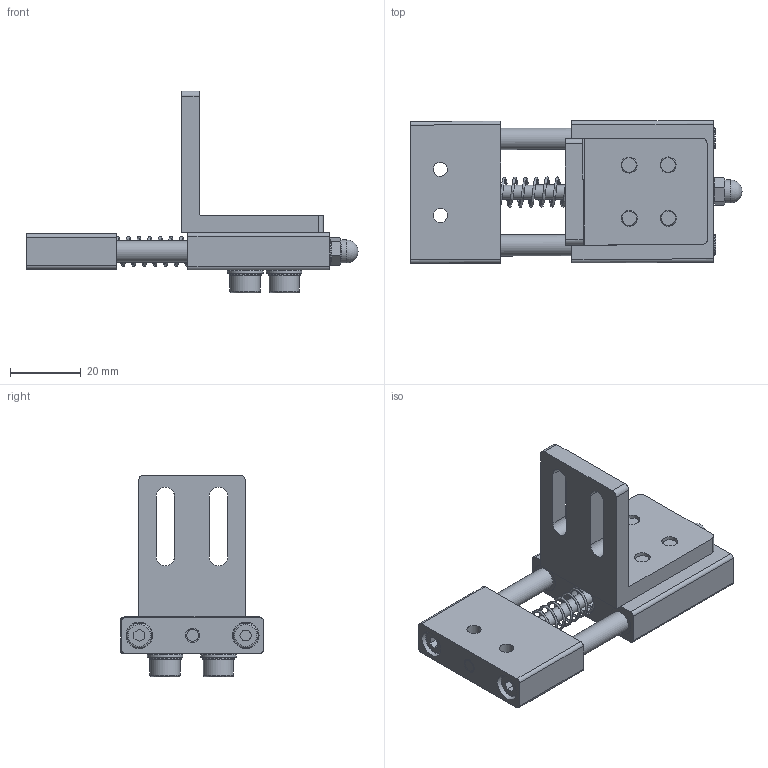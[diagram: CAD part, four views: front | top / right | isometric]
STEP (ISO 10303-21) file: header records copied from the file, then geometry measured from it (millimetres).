
FILE_DESCRIPTION(('STEP AP214'),'1');
FILE_NAME('CA.UCP.NO.20.stp','2022-07-28T07:45:22',(' '),(' '),'Spatial InterOp 3D',' ',' ');
FILE_SCHEMA(('AUTOMOTIVE_DESIGN { 1 0 10303 214 1 1 1 1 }'));
Length unit declared in the file: millimetre
Products named in the file (14): CA.UCP.NO.20; V.TCE5x16; R.5.SCH; R.5; V.TCE4x18; M.8.5X48.50.1; D.4.DIN1587; PAP.0405510; PAP.060810; UCP.NO.20.03; UCP.NO.20.05; UCP.NO.20.04; UCP.NO.20.01; UCP.NO.20.02
Assembly tree (25 placements, depth 2):
  CA.UCP.NO.20
    V.TCE5x16  x4
    R.5.SCH  x4
    R.5  x4
    V.TCE4x18  x2
    M.8.5X48.50.1
    D.4.DIN1587
    PAP.0405510
    PAP.060810  x2
    UCP.NO.20.03
    UCP.NO.20.05
    UCP.NO.20.04  x2
    UCP.NO.20.01
    UCP.NO.20.02
Bounding box: 93.57 x 40.3 x 56.9 mm (x, y, z)
Volume: 36846.7 mm3; surface area: 29283 mm2
Topology: 25 solids, 25 shells, 1062 faces, 2948 edges, 1951 vertices
Faces by surface type: plane 898, cylinder 128, cone 22, torus 12, bspline 1, sphere 1
Full cylindrical faces by diameter (mm): 3.3 x6, 4 x10, 4.02 x1, 4.2 x3, 4.5 x4, 5 x4, 5.3 x8, 5.5 x2, 6 x4, 6.05 x4, 6.5 x1, 7 x2, 7.5 x2, 8 x4, 8.5 x4, 9 x6, 10 x4
Entity records: 20368 total; most frequent: CARTESIAN_POINT 6734, DIRECTION 2034, ORIENTED_EDGE 1948, EDGE_CURVE 974, AXIS2_PLACEMENT_3D 741, VERTEX_POINT 683, LINE 552, VECTOR 552
